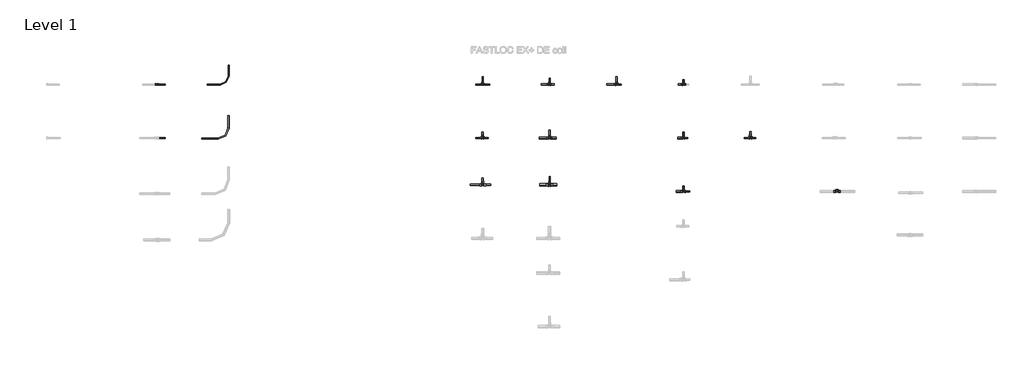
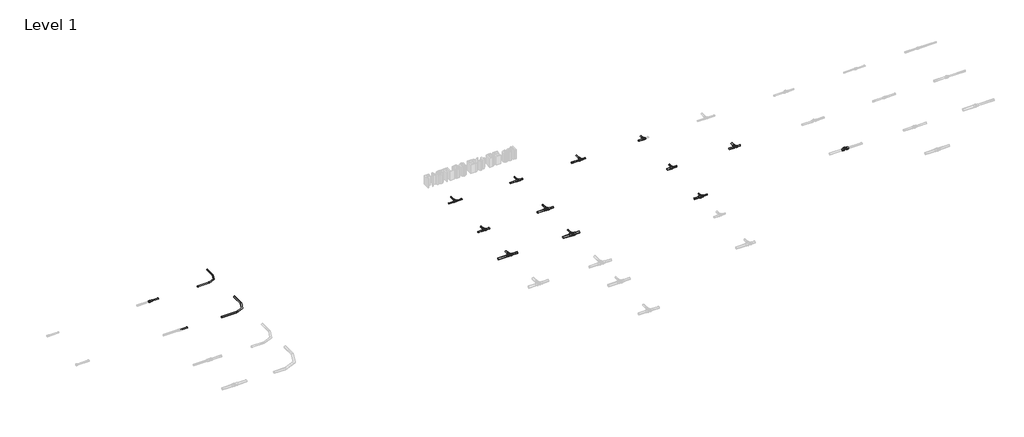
# One storey, part 13 of 16: 38 pipe segments, 16 pipe fittings.
"""IFC4 building model written with IfcOpenShell, lengths in millimetres."""

from ifc_helpers import new_model, si_unit, point, frame, frame_2d, origin, place, context, project, spatial, circle_curve, trimmed, segment, composite_curve, outline, extrude, transform, mapped, element, save
from components import pipe_fitting_8a207ca9, pipe_fitting_6d1999ba, pipe_fitting_c9c9eba3, pipe_fitting_39b045f9, pipe_fitting_378a86a2, pipe_fitting_26206a52, pipe_fitting_e85672de, pipe_fitting_b8b68d19, pipe_fitting_24fba4d8, pipe_fitting_22a72f01, pipe_fitting_0153befe, pipe_fitting_3090ac59, pipe_fitting_8e4805be, pipe_fitting_271ef6d1, pipe_fitting_f7ca1bd1, pipe_fitting_e5d04139

model = new_model("IFC4")

# Units and contexts
model_context = context("Model", 3, world=origin())
ifc_project = project(units=[si_unit("LENGTHUNIT", "METRE", prefix="MILLI")], contexts=[model_context])

# Site, building, storey
site = spatial("IfcSite", under=ifc_project)
building = spatial("IfcBuilding", under=site)
storey = spatial("IfcBuildingStorey", under=building, Name="Level 1", Elevation=0.0)

# Pipe fittings
placement = place(None, origin())
pipe_fitting_shape = pipe_fitting_8a207ca9(model_context)
element("IfcPipeFitting", 1, ObjectType="FASTLOC_ML_bend : FSL ML DE", at=placement, inside=storey, context=model_context, shape_type="MappedRepresentation", body=[
    mapped(pipe_fitting_shape, transform((25170.2040344, 2012.3520033, 0.0), x_axis=(1.0, 0.0, 0.0), y_axis=(0.0, 1.0, 0.0), z_axis=(0.0, 0.0, 1.0))),
])
pipe_fitting_2_shape = pipe_fitting_6d1999ba(model_context)
element("IfcPipeFitting", 2, ObjectType="FASTLOC_Adapter coupling EX+ : FSL TC EX+ DE", at=placement, inside=storey, context=model_context, shape_type="MappedRepresentation", body=[
    mapped(pipe_fitting_2_shape, transform((24091.3241081, 2012.3520033, 13.7), x_axis=(1.0, 0.0, 0.0), y_axis=(0.0, 1.0, 0.0), z_axis=(0.0, 0.0, 1.0))),
])
pipe_fitting_3_shape = pipe_fitting_c9c9eba3(model_context)
element("IfcPipeFitting", 3, ObjectType="RAUTITAN_Sleeve PX : RTI S PX", at=placement, inside=storey, context=model_context, shape_type="MappedRepresentation", body=[
    mapped(pipe_fitting_3_shape, transform((24105.0241081, 2012.3520033, 13.7), x_axis=(1.0, 0.0, 0.0), y_axis=(0.0, 1.0, 0.0), z_axis=(0.0, 0.0, 1.0))),
])
pipe_fitting_4_shape = pipe_fitting_39b045f9(model_context)
element("IfcPipeFitting", 4, ObjectType="FASTLOC_ML_bend : FSL ML DE", at=placement, inside=storey, context=model_context, shape_type="MappedRepresentation", body=[
    mapped(pipe_fitting_4_shape, transform((25170.2040344, 1204.3520033, 0.0), x_axis=(1.0, 0.0, 0.0), y_axis=(0.0, 1.0, 0.0), z_axis=(0.0, 0.0, 1.0))),
])
pipe_fitting_5_shape = pipe_fitting_378a86a2(model_context)
element("IfcPipeFitting", 5, ObjectType="FASTLOC_T-piece_EX+ : FSL T-Piece EX+ DE", at=placement, inside=storey, context=model_context, shape_type="MappedRepresentation", body=[
    mapped(pipe_fitting_5_shape, transform((28962.9146925, 2012.3520033, 0.0), x_axis=(1.0, 0.0, 0.0), y_axis=(0.0, 1.0, 0.0), z_axis=(0.0, 0.0, 1.0))),
])
pipe_fitting_6_shape = pipe_fitting_26206a52(model_context)
element("IfcPipeFitting", 6, ObjectType="FASTLOC_T-piece_EX+ : FSL T-Piece EX+ DE", at=placement, inside=storey, context=model_context, shape_type="MappedRepresentation", body=[
    mapped(pipe_fitting_6_shape, transform((28962.9146925, 1212.3520033, 0.0), x_axis=(1.0, 0.0, 0.0), y_axis=(0.0, 1.0, 0.0), z_axis=(0.0, 0.0, 1.0))),
])
pipe_fitting_7_shape = pipe_fitting_e85672de(model_context)
element("IfcPipeFitting", 7, ObjectType="FASTLOC_T-piece_EX+ : FSL T-Piece EX+ DE", at=placement, inside=storey, context=model_context, shape_type="MappedRepresentation", body=[
    mapped(pipe_fitting_7_shape, transform((28962.9146925, 512.3520033, 0.0), x_axis=(1.0, 0.0, 0.0), y_axis=(0.0, 1.0, 0.0), z_axis=(0.0, 0.0, 1.0))),
])
pipe_fitting_8_shape = pipe_fitting_b8b68d19(model_context)
element("IfcPipeFitting", 8, ObjectType="FASTLOC_T-piece_EX+ : FSL T-Piece EX+ DE", at=placement, inside=storey, context=model_context, shape_type="MappedRepresentation", body=[
    mapped(pipe_fitting_8_shape, transform((29962.9146925, 2012.3520033, 0.0), x_axis=(1.0, 0.0, 0.0), y_axis=(0.0, 1.0, 0.0), z_axis=(0.0, 0.0, 1.0))),
])
pipe_fitting_9_shape = pipe_fitting_24fba4d8(model_context)
element("IfcPipeFitting", 9, ObjectType="FASTLOC_T-piece_EX+ : FSL T-Piece EX+ DE", at=placement, inside=storey, context=model_context, shape_type="MappedRepresentation", body=[
    mapped(pipe_fitting_9_shape, transform((29962.9146925, 1212.3520033, 0.0), x_axis=(1.0, 0.0, 0.0), y_axis=(0.0, 1.0, 0.0), z_axis=(0.0, 0.0, 1.0))),
])
pipe_fitting_10_shape = pipe_fitting_22a72f01(model_context)
element("IfcPipeFitting", 10, ObjectType="FASTLOC_T-piece_EX+ : FSL T-Piece EX+ DE", at=placement, inside=storey, context=model_context, shape_type="MappedRepresentation", body=[
    mapped(pipe_fitting_10_shape, transform((29962.9146925, 512.3520033, 0.0), x_axis=(1.0, 0.0, 0.0), y_axis=(0.0, 1.0, 0.0), z_axis=(0.0, 0.0, 1.0))),
])
pipe_fitting_11_shape = pipe_fitting_0153befe(model_context)
element("IfcPipeFitting", 11, ObjectType="FASTLOC_T-piece_EX+ : FSL T-Piece EX+ DE", at=placement, inside=storey, context=model_context, shape_type="MappedRepresentation", body=[
    mapped(pipe_fitting_11_shape, transform((30962.9146925, 2012.3520033, 0.0), x_axis=(1.0, 0.0, 0.0), y_axis=(0.0, 1.0, 0.0), z_axis=(0.0, 0.0, 1.0))),
])
pipe_fitting_12_shape = pipe_fitting_3090ac59(model_context)
element("IfcPipeFitting", 12, ObjectType="FASTLOC_T-piece_EX+ : FSL T-Piece EX+ DE", at=placement, inside=storey, context=model_context, shape_type="MappedRepresentation", body=[
    mapped(pipe_fitting_12_shape, transform((31962.9146925, 2012.3520033, 0.0), x_axis=(1.0, 0.0, 0.0), y_axis=(0.0, 1.0, 0.0), z_axis=(0.0, 0.0, 1.0))),
])
pipe_fitting_13_shape = pipe_fitting_8e4805be(model_context)
element("IfcPipeFitting", 13, ObjectType="FASTLOC_T-piece_EX+ : FSL T-Piece EX+ DE", at=placement, inside=storey, context=model_context, shape_type="MappedRepresentation", body=[
    mapped(pipe_fitting_13_shape, transform((31962.9146925, 1212.3520033, 0.0), x_axis=(1.0, 0.0, 0.0), y_axis=(0.0, 1.0, 0.0), z_axis=(0.0, 0.0, 1.0))),
])
pipe_fitting_14_shape = pipe_fitting_271ef6d1(model_context)
element("IfcPipeFitting", 14, ObjectType="FASTLOC_T-piece_EX+ : FSL T-Piece EX+ DE", at=placement, inside=storey, context=model_context, shape_type="MappedRepresentation", body=[
    mapped(pipe_fitting_14_shape, transform((31962.9146925, 412.3520033, 0.0), x_axis=(1.0, 0.0, 0.0), y_axis=(0.0, 1.0, 0.0), z_axis=(0.0, 0.0, 1.0))),
])
pipe_fitting_15_shape = pipe_fitting_f7ca1bd1(model_context)
element("IfcPipeFitting", 15, ObjectType="FASTLOC_T-piece_EX+ : FSL T-Piece EX+ DE", at=placement, inside=storey, context=model_context, shape_type="MappedRepresentation", body=[
    mapped(pipe_fitting_15_shape, transform((32962.9146925, 1212.3520033, 0.0), x_axis=(1.0, 0.0, 0.0), y_axis=(0.0, 1.0, 0.0), z_axis=(0.0, 0.0, 1.0))),
])
pipe_fitting_16_shape = pipe_fitting_e5d04139(model_context)
element("IfcPipeFitting", 16, ObjectType="FASTLOC_T-piece internal thread EX+ : FSL T thread EX+ DE", at=placement, inside=storey, context=model_context, shape_type="MappedRepresentation", body=[
    mapped(pipe_fitting_16_shape, transform((34254.9423493, 412.3520033, 0.0), x_axis=(1.0, 0.0, 0.0), y_axis=(0.0, 1.0, 0.0), z_axis=(0.0, 0.0, 1.0))),
])

# Pipe segments
element("IfcPipeSegment", 17, ObjectType="FASTLOC EX+ ML DE bar", at=placement, inside=storey, context=model_context, shape_type="SweptSolid", body=[
    extrude(outline(composite_curve([segment(trimmed(circle_curve(frame_2d((0.0, 25170.2040344)), 8.0), [point((0.0, 25178.2040344))], [point((8.0, 25170.2040344))], False, "CARTESIAN"), True, "CONTINUOUS"), segment(trimmed(circle_curve(frame_2d((0.0, 25170.2040344)), 8.0), [point((8.0, 25170.2040344))], [point((0.0, 25162.2040344))], False, "CARTESIAN"), True, "CONTINUOUS"), segment(trimmed(circle_curve(frame_2d((0.0, 25170.2040344)), 8.0), [point((0.0, 25162.2040344))], [point((-8.0, 25170.2040344))], False, "CARTESIAN"), True, "CONTINUOUS"), segment(trimmed(circle_curve(frame_2d((0.0, 25170.2040344)), 8.0), [point((-8.0, 25170.2040344))], [point((0.0, 25178.2040344))], False, "CARTESIAN"), True, "CONTINUOUS")], self_intersect=False)), frame((0.0, 2140.3520033, 0.0), z_axis=(0.0, 1.0, 0.0), x_axis=(0.0, 0.0, 1.0)), (0.0, 0.0, 1.0), 160.0),
])
element("IfcPipeSegment", 18, ObjectType="FASTLOC EX+ ML DE bar", at=placement, inside=storey, context=model_context, shape_type="SweptSolid", body=[
    extrude(outline(composite_curve([segment(trimmed(circle_curve(frame_2d((2012.3520033, 0.0)), 8.0), [point((2020.3520033, 0.0))], [point((2012.3520033, -8.0))], False, "CARTESIAN"), True, "CONTINUOUS"), segment(trimmed(circle_curve(frame_2d((2012.3520033, 0.0)), 8.0), [point((2012.3520033, -8.0))], [point((2004.3520033, 0.0))], False, "CARTESIAN"), True, "CONTINUOUS"), segment(trimmed(circle_curve(frame_2d((2012.3520033, 0.0)), 8.0), [point((2004.3520033, 0.0))], [point((2012.3520033, 8.0))], False, "CARTESIAN"), True, "CONTINUOUS"), segment(trimmed(circle_curve(frame_2d((2012.3520033, 0.0)), 8.0), [point((2012.3520033, 8.0))], [point((2020.3520033, 0.0))], False, "CARTESIAN"), True, "CONTINUOUS")], self_intersect=False)), frame((24850.2040344, 0.0, 0.0), z_axis=(1.0, 0.0, 0.0), x_axis=(0.0, 1.0, 0.0)), (0.0, 0.0, 1.0), 192.0),
])
element("IfcPipeSegment", 19, ObjectType="FASTLOC EX+ ML DE bar", at=placement, inside=storey, context=model_context, shape_type="SweptSolid", body=[
    extrude(outline(composite_curve([segment(trimmed(circle_curve(frame_2d((0.0, 25170.2040344)), 10.0), [point((0.0, 25180.2040344))], [point((10.0, 25170.2040344))], False, "CARTESIAN"), True, "CONTINUOUS"), segment(trimmed(circle_curve(frame_2d((0.0, 25170.2040344)), 10.0), [point((10.0, 25170.2040344))], [point((0.0, 25160.2040344))], False, "CARTESIAN"), True, "CONTINUOUS"), segment(trimmed(circle_curve(frame_2d((0.0, 25170.2040344)), 10.0), [point((0.0, 25160.2040344))], [point((-10.0, 25170.2040344))], False, "CARTESIAN"), True, "CONTINUOUS"), segment(trimmed(circle_curve(frame_2d((0.0, 25170.2040344)), 10.0), [point((-10.0, 25170.2040344))], [point((0.0, 25180.2040344))], False, "CARTESIAN"), True, "CONTINUOUS")], self_intersect=False)), frame((0.0, 1364.3520033, 0.0), z_axis=(0.0, 1.0, 0.0), x_axis=(0.0, 0.0, 1.0)), (0.0, 0.0, 1.0), 180.0),
])
element("IfcPipeSegment", 20, ObjectType="FASTLOC EX+ ML DE bar", at=placement, inside=storey, context=model_context, shape_type="SweptSolid", body=[
    extrude(outline(composite_curve([segment(trimmed(circle_curve(frame_2d((1204.3520033, 0.0)), 10.0), [point((1214.3520033, 0.0))], [point((1204.3520033, -10.0))], False, "CARTESIAN"), True, "CONTINUOUS"), segment(trimmed(circle_curve(frame_2d((1204.3520033, 0.0)), 10.0), [point((1204.3520033, -10.0))], [point((1194.3520033, 0.0))], False, "CARTESIAN"), True, "CONTINUOUS"), segment(trimmed(circle_curve(frame_2d((1204.3520033, 0.0)), 10.0), [point((1194.3520033, 0.0))], [point((1204.3520033, 10.0))], False, "CARTESIAN"), True, "CONTINUOUS"), segment(trimmed(circle_curve(frame_2d((1204.3520033, 0.0)), 10.0), [point((1204.3520033, 10.0))], [point((1214.3520033, 0.0))], False, "CARTESIAN"), True, "CONTINUOUS")], self_intersect=False)), frame((24770.2040344, 0.0, 0.0), z_axis=(1.0, 0.0, 0.0), x_axis=(0.0, 1.0, 0.0)), (0.0, 0.0, 1.0), 240.0),
])
element("IfcPipeSegment", 21, ObjectType="FASTLOC EX+ ML DE bar", at=placement, inside=storey, context=model_context, shape_type="SweptSolid", body=[
    extrude(outline(composite_curve([segment(trimmed(circle_curve(frame_2d((1212.3520033, 13.7)), 10.0), [point((1202.3520033, 13.7))], [point((1212.3520033, 23.7))], False, "CARTESIAN"), True, "CONTINUOUS"), segment(trimmed(circle_curve(frame_2d((1212.3520033, 13.7)), 10.0), [point((1212.3520033, 23.7))], [point((1222.3520033, 13.7))], False, "CARTESIAN"), True, "CONTINUOUS"), segment(trimmed(circle_curve(frame_2d((1212.3520033, 13.7)), 10.0), [point((1222.3520033, 13.7))], [point((1212.3520033, 3.7))], False, "CARTESIAN"), True, "CONTINUOUS"), segment(trimmed(circle_curve(frame_2d((1212.3520033, 13.7)), 10.0), [point((1212.3520033, 3.7))], [point((1202.3520033, 13.7))], False, "CARTESIAN"), True, "CONTINUOUS")], self_intersect=False)), frame((24105.6241081, 0.0, 0.0), z_axis=(1.0, 0.0, 0.0), x_axis=(0.0, 1.0, 0.0)), (0.0, 0.0, 1.0), 120.0),
])
element("IfcPipeSegment", 22, ObjectType="FASTLOC EX+ ML DE bar", at=placement, inside=storey, context=model_context, shape_type="SweptSolid", body=[
    extrude(outline(composite_curve([segment(trimmed(circle_curve(frame_2d((2012.3520033, 13.7)), 8.0), [point((2004.3520033, 13.7))], [point((2012.3520033, 21.7))], False, "CARTESIAN"), True, "CONTINUOUS"), segment(trimmed(circle_curve(frame_2d((2012.3520033, 13.7)), 8.0), [point((2012.3520033, 21.7))], [point((2020.3520033, 13.7))], False, "CARTESIAN"), True, "CONTINUOUS"), segment(trimmed(circle_curve(frame_2d((2012.3520033, 13.7)), 8.0), [point((2020.3520033, 13.7))], [point((2012.3520033, 5.7))], False, "CARTESIAN"), True, "CONTINUOUS"), segment(trimmed(circle_curve(frame_2d((2012.3520033, 13.7)), 8.0), [point((2012.3520033, 5.7))], [point((2004.3520033, 13.7))], False, "CARTESIAN"), True, "CONTINUOUS")], self_intersect=False)), frame((24105.0241081, 0.0, 0.0), z_axis=(1.0, 0.0, 0.0), x_axis=(0.0, 1.0, 0.0)), (0.0, 0.0, 1.0), 120.6),
])
element("IfcPipeSegment", 23, ObjectType="FASTLOC EX+ ML DE coil", at=placement, inside=storey, context=model_context, shape_type="SweptSolid", body=[
    extrude(outline(composite_curve([segment(trimmed(circle_curve(frame_2d((1212.3520033, 0.0)), 10.0), [point((1222.3520033, 0.0))], [point((1212.3520033, -10.0))], False, "CARTESIAN"), True, "CONTINUOUS"), segment(trimmed(circle_curve(frame_2d((1212.3520033, 0.0)), 10.0), [point((1212.3520033, -10.0))], [point((1202.3520033, 0.0))], False, "CARTESIAN"), True, "CONTINUOUS"), segment(trimmed(circle_curve(frame_2d((1212.3520033, 0.0)), 10.0), [point((1202.3520033, 0.0))], [point((1212.3520033, 10.0))], False, "CARTESIAN"), True, "CONTINUOUS"), segment(trimmed(circle_curve(frame_2d((1212.3520033, 0.0)), 10.0), [point((1212.3520033, 10.0))], [point((1222.3520033, 0.0))], False, "CARTESIAN"), True, "CONTINUOUS")], self_intersect=False)), frame((32868.9146925, 0.0, 0.0), z_axis=(1.0, 0.0, 0.0), x_axis=(0.0, 1.0, 0.0)), (0.0, 0.0, 1.0), 75.0),
])
element("IfcPipeSegment", 24, ObjectType="FASTLOC EX+ ML DE coil", at=placement, inside=storey, context=model_context, shape_type="SweptSolid", body=[
    extrude(outline(composite_curve([segment(trimmed(circle_curve(frame_2d((1212.3520033, 0.0)), 10.0), [point((1202.3520033, 0.0))], [point((1212.3520033, 10.0))], False, "CARTESIAN"), True, "CONTINUOUS"), segment(trimmed(circle_curve(frame_2d((1212.3520033, 0.0)), 10.0), [point((1212.3520033, 10.0))], [point((1222.3520033, 0.0))], False, "CARTESIAN"), True, "CONTINUOUS"), segment(trimmed(circle_curve(frame_2d((1212.3520033, 0.0)), 10.0), [point((1222.3520033, 0.0))], [point((1212.3520033, -10.0))], False, "CARTESIAN"), True, "CONTINUOUS"), segment(trimmed(circle_curve(frame_2d((1212.3520033, 0.0)), 10.0), [point((1212.3520033, -10.0))], [point((1202.3520033, 0.0))], False, "CARTESIAN"), True, "CONTINUOUS")], self_intersect=False)), frame((32981.9146925, 0.0, 0.0), z_axis=(1.0, 0.0, 0.0), x_axis=(0.0, 1.0, 0.0)), (0.0, 0.0, 1.0), 60.0),
])
element("IfcPipeSegment", 25, ObjectType="FASTLOC EX+ ML DE coil", at=placement, inside=storey, context=model_context, shape_type="SweptSolid", body=[
    extrude(outline(composite_curve([segment(trimmed(circle_curve(frame_2d((0.0, 32962.9146925)), 12.5), [point((0.0, 32975.4146925))], [point((12.5, 32962.9146925))], False, "CARTESIAN"), True, "CONTINUOUS"), segment(trimmed(circle_curve(frame_2d((0.0, 32962.9146925)), 12.5), [point((12.5, 32962.9146925))], [point((0.0, 32950.4146925))], False, "CARTESIAN"), True, "CONTINUOUS"), segment(trimmed(circle_curve(frame_2d((0.0, 32962.9146925)), 12.5), [point((0.0, 32950.4146925))], [point((-12.5, 32962.9146925))], False, "CARTESIAN"), True, "CONTINUOUS"), segment(trimmed(circle_curve(frame_2d((0.0, 32962.9146925)), 12.5), [point((-12.5, 32962.9146925))], [point((0.0, 32975.4146925))], False, "CARTESIAN"), True, "CONTINUOUS")], self_intersect=False)), frame((0.0, 1239.1520033, 0.0), z_axis=(0.0, 1.0, 0.0), x_axis=(0.0, 0.0, 1.0)), (0.0, 0.0, 1.0), 70.0),
])
element("IfcPipeSegment", 26, ObjectType="FASTLOC EX+ ML DE coil", at=placement, inside=storey, context=model_context, shape_type="SweptSolid", body=[
    extrude(outline(composite_curve([segment(trimmed(circle_curve(frame_2d((2012.3520033, 0.0)), 10.0), [point((2022.3520033, 0.0))], [point((2012.3520033, -10.0))], False, "CARTESIAN"), True, "CONTINUOUS"), segment(trimmed(circle_curve(frame_2d((2012.3520033, 0.0)), 10.0), [point((2012.3520033, -10.0))], [point((2002.3520033, 0.0))], False, "CARTESIAN"), True, "CONTINUOUS"), segment(trimmed(circle_curve(frame_2d((2012.3520033, 0.0)), 10.0), [point((2002.3520033, 0.0))], [point((2012.3520033, 10.0))], False, "CARTESIAN"), True, "CONTINUOUS"), segment(trimmed(circle_curve(frame_2d((2012.3520033, 0.0)), 10.0), [point((2012.3520033, 10.0))], [point((2022.3520033, 0.0))], False, "CARTESIAN"), True, "CONTINUOUS")], self_intersect=False)), frame((31882.4146925, 0.0, 0.0), z_axis=(1.0, 0.0, 0.0), x_axis=(0.0, 1.0, 0.0)), (0.0, 0.0, 1.0), 65.0),
])
element("IfcPipeSegment", 27, ObjectType="FASTLOC EX+ ML DE coil", at=placement, inside=storey, context=model_context, shape_type="SweptSolid", body=[
    extrude(outline(composite_curve([segment(trimmed(circle_curve(frame_2d((0.0, 31962.9146925)), 8.0), [point((0.0, 31970.9146925))], [point((8.0, 31962.9146925))], False, "CARTESIAN"), True, "CONTINUOUS"), segment(trimmed(circle_curve(frame_2d((0.0, 31962.9146925)), 8.0), [point((8.0, 31962.9146925))], [point((0.0, 31954.9146925))], False, "CARTESIAN"), True, "CONTINUOUS"), segment(trimmed(circle_curve(frame_2d((0.0, 31962.9146925)), 8.0), [point((0.0, 31954.9146925))], [point((-8.0, 31962.9146925))], False, "CARTESIAN"), True, "CONTINUOUS"), segment(trimmed(circle_curve(frame_2d((0.0, 31962.9146925)), 8.0), [point((-8.0, 31962.9146925))], [point((0.0, 31970.9146925))], False, "CARTESIAN"), True, "CONTINUOUS")], self_intersect=False)), frame((0.0, 2038.7520033, 0.0), z_axis=(0.0, 1.0, 0.0), x_axis=(0.0, 0.0, 1.0)), (0.0, 0.0, 1.0), 50.0),
])
element("IfcPipeSegment", 28, ObjectType="FASTLOC EX+ ML DE coil", at=placement, inside=storey, context=model_context, shape_type="SweptSolid", body=[
    extrude(outline(composite_curve([segment(trimmed(circle_curve(frame_2d((1212.3520033, 0.0)), 8.0), [point((1204.3520033, 0.0))], [point((1212.3520033, 8.0))], False, "CARTESIAN"), True, "CONTINUOUS"), segment(trimmed(circle_curve(frame_2d((1212.3520033, 0.0)), 8.0), [point((1212.3520033, 8.0))], [point((1220.3520033, 0.0))], False, "CARTESIAN"), True, "CONTINUOUS"), segment(trimmed(circle_curve(frame_2d((1212.3520033, 0.0)), 8.0), [point((1220.3520033, 0.0))], [point((1212.3520033, -8.0))], False, "CARTESIAN"), True, "CONTINUOUS"), segment(trimmed(circle_curve(frame_2d((1212.3520033, 0.0)), 8.0), [point((1212.3520033, -8.0))], [point((1204.3520033, 0.0))], False, "CARTESIAN"), True, "CONTINUOUS")], self_intersect=False)), frame((31978.0146925, 0.0, 0.0), z_axis=(1.0, 0.0, 0.0), x_axis=(0.0, 1.0, 0.0)), (0.0, 0.0, 1.0), 51.7891439),
])
element("IfcPipeSegment", 29, ObjectType="FASTLOC EX+ ML DE coil", at=placement, inside=storey, context=model_context, shape_type="SweptSolid", body=[
    extrude(outline(composite_curve([segment(trimmed(circle_curve(frame_2d((1212.3520033, 0.0)), 12.5), [point((1224.8520033, 0.0))], [point((1212.3520033, -12.5))], False, "CARTESIAN"), True, "CONTINUOUS"), segment(trimmed(circle_curve(frame_2d((1212.3520033, 0.0)), 12.5), [point((1212.3520033, -12.5))], [point((1199.8520033, 0.0))], False, "CARTESIAN"), True, "CONTINUOUS"), segment(trimmed(circle_curve(frame_2d((1212.3520033, 0.0)), 12.5), [point((1199.8520033, 0.0))], [point((1212.3520033, 12.5))], False, "CARTESIAN"), True, "CONTINUOUS"), segment(trimmed(circle_curve(frame_2d((1212.3520033, 0.0)), 12.5), [point((1212.3520033, 12.5))], [point((1224.8520033, 0.0))], False, "CARTESIAN"), True, "CONTINUOUS")], self_intersect=False)), frame((31876.5146925, 0.0, 0.0), z_axis=(1.0, 0.0, 0.0), x_axis=(0.0, 1.0, 0.0)), (0.0, 0.0, 1.0), 70.0),
])
element("IfcPipeSegment", 30, ObjectType="FASTLOC EX+ ML DE coil", at=placement, inside=storey, context=model_context, shape_type="SweptSolid", body=[
    extrude(outline(composite_curve([segment(trimmed(circle_curve(frame_2d((0.0, 31962.9146925)), 8.0), [point((0.0, 31970.9146925))], [point((8.0, 31962.9146925))], False, "CARTESIAN"), True, "CONTINUOUS"), segment(trimmed(circle_curve(frame_2d((0.0, 31962.9146925)), 8.0), [point((8.0, 31962.9146925))], [point((0.0, 31954.9146925))], False, "CARTESIAN"), True, "CONTINUOUS"), segment(trimmed(circle_curve(frame_2d((0.0, 31962.9146925)), 8.0), [point((0.0, 31954.9146925))], [point((-8.0, 31962.9146925))], False, "CARTESIAN"), True, "CONTINUOUS"), segment(trimmed(circle_curve(frame_2d((0.0, 31962.9146925)), 8.0), [point((-8.0, 31962.9146925))], [point((0.0, 31970.9146925))], False, "CARTESIAN"), True, "CONTINUOUS")], self_intersect=False)), frame((0.0, 1241.4520033, 0.0), z_axis=(0.0, 1.0, 0.0), x_axis=(0.0, 0.0, 1.0)), (0.0, 0.0, 1.0), 57.2788778),
])
element("IfcPipeSegment", 31, ObjectType="FASTLOC EX+ ML DE coil", at=placement, inside=storey, context=model_context, shape_type="SweptSolid", body=[
    extrude(outline(composite_curve([segment(trimmed(circle_curve(frame_2d((412.3520033, 0.0)), 10.0), [point((402.3520033, 0.0))], [point((412.3520033, 10.0))], False, "CARTESIAN"), True, "CONTINUOUS"), segment(trimmed(circle_curve(frame_2d((412.3520033, 0.0)), 10.0), [point((412.3520033, 10.0))], [point((422.3520033, 0.0))], False, "CARTESIAN"), True, "CONTINUOUS"), segment(trimmed(circle_curve(frame_2d((412.3520033, 0.0)), 10.0), [point((422.3520033, 0.0))], [point((412.3520033, -10.0))], False, "CARTESIAN"), True, "CONTINUOUS"), segment(trimmed(circle_curve(frame_2d((412.3520033, 0.0)), 10.0), [point((412.3520033, -10.0))], [point((402.3520033, 0.0))], False, "CARTESIAN"), True, "CONTINUOUS")], self_intersect=False)), frame((31978.4146925, 0.0, 0.0), z_axis=(1.0, 0.0, 0.0), x_axis=(0.0, 1.0, 0.0)), (0.0, 0.0, 1.0), 75.0),
])
element("IfcPipeSegment", 32, ObjectType="FASTLOC EX+ ML DE coil", at=placement, inside=storey, context=model_context, shape_type="SweptSolid", body=[
    extrude(outline(composite_curve([segment(trimmed(circle_curve(frame_2d((0.0, 31962.9146925)), 8.0), [point((0.0, 31970.9146925))], [point((8.0, 31962.9146925))], False, "CARTESIAN"), True, "CONTINUOUS"), segment(trimmed(circle_curve(frame_2d((0.0, 31962.9146925)), 8.0), [point((8.0, 31962.9146925))], [point((0.0, 31954.9146925))], False, "CARTESIAN"), True, "CONTINUOUS"), segment(trimmed(circle_curve(frame_2d((0.0, 31962.9146925)), 8.0), [point((0.0, 31954.9146925))], [point((-8.0, 31962.9146925))], False, "CARTESIAN"), True, "CONTINUOUS"), segment(trimmed(circle_curve(frame_2d((0.0, 31962.9146925)), 8.0), [point((-8.0, 31962.9146925))], [point((0.0, 31970.9146925))], False, "CARTESIAN"), True, "CONTINUOUS")], self_intersect=False)), frame((0.0, 441.4520033, 0.0), z_axis=(0.0, 1.0, 0.0), x_axis=(0.0, 0.0, 1.0)), (0.0, 0.0, 1.0), 50.0),
])
element("IfcPipeSegment", 33, ObjectType="FASTLOC EX+ ML DE coil", at=placement, inside=storey, context=model_context, shape_type="SweptSolid", body=[
    extrude(outline(composite_curve([segment(trimmed(circle_curve(frame_2d((412.3520033, 0.0)), 12.5), [point((424.8520033, 0.0))], [point((412.3520033, -12.5))], False, "CARTESIAN"), True, "CONTINUOUS"), segment(trimmed(circle_curve(frame_2d((412.3520033, 0.0)), 12.5), [point((412.3520033, -12.5))], [point((399.8520033, 0.0))], False, "CARTESIAN"), True, "CONTINUOUS"), segment(trimmed(circle_curve(frame_2d((412.3520033, 0.0)), 12.5), [point((399.8520033, 0.0))], [point((412.3520033, 12.5))], False, "CARTESIAN"), True, "CONTINUOUS"), segment(trimmed(circle_curve(frame_2d((412.3520033, 0.0)), 12.5), [point((412.3520033, 12.5))], [point((424.8520033, 0.0))], False, "CARTESIAN"), True, "CONTINUOUS")], self_intersect=False)), frame((31851.5146925, 0.0, 0.0), z_axis=(1.0, 0.0, 0.0), x_axis=(0.0, 1.0, 0.0)), (0.0, 0.0, 1.0), 95.0),
])
element("IfcPipeSegment", 34, ObjectType="FASTLOC EX+ ML DE coil", at=placement, inside=storey, context=model_context, shape_type="SweptSolid", body=[
    extrude(outline(composite_curve([segment(trimmed(circle_curve(frame_2d((2012.3520033, 0.0)), 8.0), [point((2004.3520033, 0.0))], [point((2012.3520033, 8.0))], False, "CARTESIAN"), True, "CONTINUOUS"), segment(trimmed(circle_curve(frame_2d((2012.3520033, 0.0)), 8.0), [point((2012.3520033, 8.0))], [point((2020.3520033, 0.0))], False, "CARTESIAN"), True, "CONTINUOUS"), segment(trimmed(circle_curve(frame_2d((2012.3520033, 0.0)), 8.0), [point((2020.3520033, 0.0))], [point((2012.3520033, -8.0))], False, "CARTESIAN"), True, "CONTINUOUS"), segment(trimmed(circle_curve(frame_2d((2012.3520033, 0.0)), 8.0), [point((2012.3520033, -8.0))], [point((2004.3520033, 0.0))], False, "CARTESIAN"), True, "CONTINUOUS")], self_intersect=False)), frame((30979.9146925, 0.0, 0.0), z_axis=(1.0, 0.0, 0.0), x_axis=(0.0, 1.0, 0.0)), (0.0, 0.0, 1.0), 55.0),
])
element("IfcPipeSegment", 35, ObjectType="FASTLOC EX+ ML DE coil", at=placement, inside=storey, context=model_context, shape_type="SweptSolid", body=[
    extrude(outline(composite_curve([segment(trimmed(circle_curve(frame_2d((0.0, 30962.9146925)), 10.0), [point((0.0, 30972.9146925))], [point((10.0, 30962.9146925))], False, "CARTESIAN"), True, "CONTINUOUS"), segment(trimmed(circle_curve(frame_2d((0.0, 30962.9146925)), 10.0), [point((10.0, 30962.9146925))], [point((0.0, 30952.9146925))], False, "CARTESIAN"), True, "CONTINUOUS"), segment(trimmed(circle_curve(frame_2d((0.0, 30962.9146925)), 10.0), [point((0.0, 30952.9146925))], [point((-10.0, 30962.9146925))], False, "CARTESIAN"), True, "CONTINUOUS"), segment(trimmed(circle_curve(frame_2d((0.0, 30962.9146925)), 10.0), [point((-10.0, 30962.9146925))], [point((0.0, 30972.9146925))], False, "CARTESIAN"), True, "CONTINUOUS")], self_intersect=False)), frame((0.0, 2038.7520033, 0.0), z_axis=(0.0, 1.0, 0.0), x_axis=(0.0, 0.0, 1.0)), (0.0, 0.0, 1.0), 90.0),
])
element("IfcPipeSegment", 36, ObjectType="FASTLOC EX+ ML DE coil", at=placement, inside=storey, context=model_context, shape_type="SweptSolid", body=[
    extrude(outline(composite_curve([segment(trimmed(circle_curve(frame_2d((2012.3520033, 0.0)), 10.0), [point((2022.3520033, 0.0))], [point((2012.3520033, -10.0))], False, "CARTESIAN"), True, "CONTINUOUS"), segment(trimmed(circle_curve(frame_2d((2012.3520033, 0.0)), 10.0), [point((2012.3520033, -10.0))], [point((2002.3520033, 0.0))], False, "CARTESIAN"), True, "CONTINUOUS"), segment(trimmed(circle_curve(frame_2d((2012.3520033, 0.0)), 10.0), [point((2002.3520033, 0.0))], [point((2012.3520033, 10.0))], False, "CARTESIAN"), True, "CONTINUOUS"), segment(trimmed(circle_curve(frame_2d((2012.3520033, 0.0)), 10.0), [point((2012.3520033, 10.0))], [point((2022.3520033, 0.0))], False, "CARTESIAN"), True, "CONTINUOUS")], self_intersect=False)), frame((30815.5146925, 0.0, 0.0), z_axis=(1.0, 0.0, 0.0), x_axis=(0.0, 1.0, 0.0)), (0.0, 0.0, 1.0), 130.0),
])
element("IfcPipeSegment", 37, ObjectType="FASTLOC EX+ ML DE coil", at=placement, inside=storey, context=model_context, shape_type="SweptSolid", body=[
    extrude(outline(composite_curve([segment(trimmed(circle_curve(frame_2d((2012.3520033, 0.0)), 10.0), [point((2002.3520033, 0.0))], [point((2012.3520033, 10.0))], False, "CARTESIAN"), True, "CONTINUOUS"), segment(trimmed(circle_curve(frame_2d((2012.3520033, 0.0)), 10.0), [point((2012.3520033, 10.0))], [point((2022.3520033, 0.0))], False, "CARTESIAN"), True, "CONTINUOUS"), segment(trimmed(circle_curve(frame_2d((2012.3520033, 0.0)), 10.0), [point((2022.3520033, 0.0))], [point((2012.3520033, -10.0))], False, "CARTESIAN"), True, "CONTINUOUS"), segment(trimmed(circle_curve(frame_2d((2012.3520033, 0.0)), 10.0), [point((2012.3520033, -10.0))], [point((2002.3520033, 0.0))], False, "CARTESIAN"), True, "CONTINUOUS")], self_intersect=False)), frame((29978.2146925, 0.0, 0.0), z_axis=(1.0, 0.0, 0.0), x_axis=(0.0, 1.0, 0.0)), (0.0, 0.0, 1.0), 55.0),
])
element("IfcPipeSegment", 38, ObjectType="FASTLOC EX+ ML DE coil", at=placement, inside=storey, context=model_context, shape_type="SweptSolid", body=[
    extrude(outline(composite_curve([segment(trimmed(circle_curve(frame_2d((0.0, 29962.9146925)), 8.0), [point((0.0, 29970.9146925))], [point((8.0, 29962.9146925))], False, "CARTESIAN"), True, "CONTINUOUS"), segment(trimmed(circle_curve(frame_2d((0.0, 29962.9146925)), 8.0), [point((8.0, 29962.9146925))], [point((0.0, 29954.9146925))], False, "CARTESIAN"), True, "CONTINUOUS"), segment(trimmed(circle_curve(frame_2d((0.0, 29962.9146925)), 8.0), [point((0.0, 29954.9146925))], [point((-8.0, 29962.9146925))], False, "CARTESIAN"), True, "CONTINUOUS"), segment(trimmed(circle_curve(frame_2d((0.0, 29962.9146925)), 8.0), [point((-8.0, 29962.9146925))], [point((0.0, 29970.9146925))], False, "CARTESIAN"), True, "CONTINUOUS")], self_intersect=False)), frame((0.0, 2038.6520033, 0.0), z_axis=(0.0, 1.0, 0.0), x_axis=(0.0, 0.0, 1.0)), (0.0, 0.0, 1.0), 70.0),
])
element("IfcPipeSegment", 39, ObjectType="FASTLOC EX+ ML DE coil", at=placement, inside=storey, context=model_context, shape_type="SweptSolid", body=[
    extrude(outline(composite_curve([segment(trimmed(circle_curve(frame_2d((2012.3520033, 0.0)), 10.0), [point((2022.3520033, 0.0))], [point((2012.3520033, -10.0))], False, "CARTESIAN"), True, "CONTINUOUS"), segment(trimmed(circle_curve(frame_2d((2012.3520033, 0.0)), 10.0), [point((2012.3520033, -10.0))], [point((2002.3520033, 0.0))], False, "CARTESIAN"), True, "CONTINUOUS"), segment(trimmed(circle_curve(frame_2d((2012.3520033, 0.0)), 10.0), [point((2002.3520033, 0.0))], [point((2012.3520033, 10.0))], False, "CARTESIAN"), True, "CONTINUOUS"), segment(trimmed(circle_curve(frame_2d((2012.3520033, 0.0)), 10.0), [point((2012.3520033, 10.0))], [point((2022.3520033, 0.0))], False, "CARTESIAN"), True, "CONTINUOUS")], self_intersect=False)), frame((29837.6146925, 0.0, 0.0), z_axis=(1.0, 0.0, 0.0), x_axis=(0.0, 1.0, 0.0)), (0.0, 0.0, 1.0), 110.0),
])
element("IfcPipeSegment", 40, ObjectType="FASTLOC EX+ ML DE coil", at=placement, inside=storey, context=model_context, shape_type="SweptSolid", body=[
    extrude(outline(composite_curve([segment(trimmed(circle_curve(frame_2d((1212.3520033, 0.0)), 12.5), [point((1199.8520033, 0.0))], [point((1212.3520033, 12.5))], False, "CARTESIAN"), True, "CONTINUOUS"), segment(trimmed(circle_curve(frame_2d((1212.3520033, 0.0)), 12.5), [point((1212.3520033, 12.5))], [point((1224.8520033, 0.0))], False, "CARTESIAN"), True, "CONTINUOUS"), segment(trimmed(circle_curve(frame_2d((1212.3520033, 0.0)), 12.5), [point((1224.8520033, 0.0))], [point((1212.3520033, -12.5))], False, "CARTESIAN"), True, "CONTINUOUS"), segment(trimmed(circle_curve(frame_2d((1212.3520033, 0.0)), 12.5), [point((1212.3520033, -12.5))], [point((1199.8520033, 0.0))], False, "CARTESIAN"), True, "CONTINUOUS")], self_intersect=False)), frame((29981.0146925, 0.0, 0.0), z_axis=(1.0, 0.0, 0.0), x_axis=(0.0, 1.0, 0.0)), (0.0, 0.0, 1.0), 80.0),
])
element("IfcPipeSegment", 41, ObjectType="FASTLOC EX+ ML DE coil", at=placement, inside=storey, context=model_context, shape_type="SweptSolid", body=[
    extrude(outline(composite_curve([segment(trimmed(circle_curve(frame_2d((0.0, 29962.9146925)), 10.0), [point((0.0, 29972.9146925))], [point((10.0, 29962.9146925))], False, "CARTESIAN"), True, "CONTINUOUS"), segment(trimmed(circle_curve(frame_2d((0.0, 29962.9146925)), 10.0), [point((10.0, 29962.9146925))], [point((0.0, 29952.9146925))], False, "CARTESIAN"), True, "CONTINUOUS"), segment(trimmed(circle_curve(frame_2d((0.0, 29962.9146925)), 10.0), [point((0.0, 29952.9146925))], [point((-10.0, 29962.9146925))], False, "CARTESIAN"), True, "CONTINUOUS"), segment(trimmed(circle_curve(frame_2d((0.0, 29962.9146925)), 10.0), [point((-10.0, 29962.9146925))], [point((0.0, 29972.9146925))], False, "CARTESIAN"), True, "CONTINUOUS")], self_intersect=False)), frame((0.0, 1241.5520033, 0.0), z_axis=(0.0, 1.0, 0.0), x_axis=(0.0, 0.0, 1.0)), (0.0, 0.0, 1.0), 90.0),
])
element("IfcPipeSegment", 42, ObjectType="FASTLOC EX+ ML DE coil", at=placement, inside=storey, context=model_context, shape_type="SweptSolid", body=[
    extrude(outline(composite_curve([segment(trimmed(circle_curve(frame_2d((1212.3520033, 0.0)), 12.5), [point((1224.8520033, 0.0))], [point((1212.3520033, -12.5))], False, "CARTESIAN"), True, "CONTINUOUS"), segment(trimmed(circle_curve(frame_2d((1212.3520033, 0.0)), 12.5), [point((1212.3520033, -12.5))], [point((1199.8520033, 0.0))], False, "CARTESIAN"), True, "CONTINUOUS"), segment(trimmed(circle_curve(frame_2d((1212.3520033, 0.0)), 12.5), [point((1199.8520033, 0.0))], [point((1212.3520033, 12.5))], False, "CARTESIAN"), True, "CONTINUOUS"), segment(trimmed(circle_curve(frame_2d((1212.3520033, 0.0)), 12.5), [point((1212.3520033, 12.5))], [point((1224.8520033, 0.0))], False, "CARTESIAN"), True, "CONTINUOUS")], self_intersect=False)), frame((29809.8146925, 0.0, 0.0), z_axis=(1.0, 0.0, 0.0), x_axis=(0.0, 1.0, 0.0)), (0.0, 0.0, 1.0), 135.0),
])
element("IfcPipeSegment", 43, ObjectType="FASTLOC EX+ ML DE coil", at=placement, inside=storey, context=model_context, shape_type="SweptSolid", body=[
    extrude(outline(composite_curve([segment(trimmed(circle_curve(frame_2d((512.3520033, 0.0)), 16.0), [point((496.3520033, 0.0))], [point((512.3520033, 16.0))], False, "CARTESIAN"), True, "CONTINUOUS"), segment(trimmed(circle_curve(frame_2d((512.3520033, 0.0)), 16.0), [point((512.3520033, 16.0))], [point((528.3520033, 0.0))], False, "CARTESIAN"), True, "CONTINUOUS"), segment(trimmed(circle_curve(frame_2d((512.3520033, 0.0)), 16.0), [point((528.3520033, 0.0))], [point((512.3520033, -16.0))], False, "CARTESIAN"), True, "CONTINUOUS"), segment(trimmed(circle_curve(frame_2d((512.3520033, 0.0)), 16.0), [point((512.3520033, -16.0))], [point((496.3520033, 0.0))], False, "CARTESIAN"), True, "CONTINUOUS")], self_intersect=False)), frame((29981.2146925, 0.0, 0.0), z_axis=(1.0, 0.0, 0.0), x_axis=(0.0, 1.0, 0.0)), (0.0, 0.0, 1.0), 90.0),
])
element("IfcPipeSegment", 44, ObjectType="FASTLOC EX+ ML DE coil", at=placement, inside=storey, context=model_context, shape_type="SweptSolid", body=[
    extrude(outline(composite_curve([segment(trimmed(circle_curve(frame_2d((0.0, 29962.9146925)), 8.0), [point((0.0, 29970.9146925))], [point((8.0, 29962.9146925))], False, "CARTESIAN"), True, "CONTINUOUS"), segment(trimmed(circle_curve(frame_2d((0.0, 29962.9146925)), 8.0), [point((8.0, 29962.9146925))], [point((0.0, 29954.9146925))], False, "CARTESIAN"), True, "CONTINUOUS"), segment(trimmed(circle_curve(frame_2d((0.0, 29962.9146925)), 8.0), [point((0.0, 29954.9146925))], [point((-8.0, 29962.9146925))], False, "CARTESIAN"), True, "CONTINUOUS"), segment(trimmed(circle_curve(frame_2d((0.0, 29962.9146925)), 8.0), [point((-8.0, 29962.9146925))], [point((0.0, 29970.9146925))], False, "CARTESIAN"), True, "CONTINUOUS")], self_intersect=False)), frame((0.0, 546.2520033, 0.0), z_axis=(0.0, 1.0, 0.0), x_axis=(0.0, 0.0, 1.0)), (0.0, 0.0, 1.0), 90.0),
])
element("IfcPipeSegment", 45, ObjectType="FASTLOC EX+ ML DE coil", at=placement, inside=storey, context=model_context, shape_type="SweptSolid", body=[
    extrude(outline(composite_curve([segment(trimmed(circle_curve(frame_2d((512.3520033, 0.0)), 16.0), [point((528.3520033, 0.0))], [point((512.3520033, -16.0))], False, "CARTESIAN"), True, "CONTINUOUS"), segment(trimmed(circle_curve(frame_2d((512.3520033, 0.0)), 16.0), [point((512.3520033, -16.0))], [point((496.3520033, 0.0))], False, "CARTESIAN"), True, "CONTINUOUS"), segment(trimmed(circle_curve(frame_2d((512.3520033, 0.0)), 16.0), [point((496.3520033, 0.0))], [point((512.3520033, 16.0))], False, "CARTESIAN"), True, "CONTINUOUS"), segment(trimmed(circle_curve(frame_2d((512.3520033, 0.0)), 16.0), [point((512.3520033, 16.0))], [point((528.3520033, 0.0))], False, "CARTESIAN"), True, "CONTINUOUS")], self_intersect=False)), frame((29814.6146925, 0.0, 0.0), z_axis=(1.0, 0.0, 0.0), x_axis=(0.0, 1.0, 0.0)), (0.0, 0.0, 1.0), 130.0),
])
element("IfcPipeSegment", 46, ObjectType="FASTLOC EX+ ML DE coil", at=placement, inside=storey, context=model_context, shape_type="SweptSolid", body=[
    extrude(outline(composite_curve([segment(trimmed(circle_curve(frame_2d((0.0, 28962.9146925)), 12.5), [point((0.0, 28975.4146925))], [point((12.5, 28962.9146925))], False, "CARTESIAN"), True, "CONTINUOUS"), segment(trimmed(circle_curve(frame_2d((0.0, 28962.9146925)), 12.5), [point((12.5, 28962.9146925))], [point((0.0, 28950.4146925))], False, "CARTESIAN"), True, "CONTINUOUS"), segment(trimmed(circle_curve(frame_2d((0.0, 28962.9146925)), 12.5), [point((0.0, 28950.4146925))], [point((-12.5, 28962.9146925))], False, "CARTESIAN"), True, "CONTINUOUS"), segment(trimmed(circle_curve(frame_2d((0.0, 28962.9146925)), 12.5), [point((-12.5, 28962.9146925))], [point((0.0, 28975.4146925))], False, "CARTESIAN"), True, "CONTINUOUS")], self_intersect=False)), frame((0.0, 541.8520033, 0.0), z_axis=(0.0, 1.0, 0.0), x_axis=(0.0, 0.0, 1.0)), (0.0, 0.0, 1.0), 70.0),
])
element("IfcPipeSegment", 47, ObjectType="FASTLOC EX+ ML DE coil", at=placement, inside=storey, context=model_context, shape_type="SweptSolid", body=[
    extrude(outline(composite_curve([segment(trimmed(circle_curve(frame_2d((512.3520033, 0.0)), 12.5), [point((499.8520033, 0.0))], [point((512.3520033, 12.5))], False, "CARTESIAN"), True, "CONTINUOUS"), segment(trimmed(circle_curve(frame_2d((512.3520033, 0.0)), 12.5), [point((512.3520033, 12.5))], [point((524.8520033, 0.0))], False, "CARTESIAN"), True, "CONTINUOUS"), segment(trimmed(circle_curve(frame_2d((512.3520033, 0.0)), 12.5), [point((524.8520033, 0.0))], [point((512.3520033, -12.5))], False, "CARTESIAN"), True, "CONTINUOUS"), segment(trimmed(circle_curve(frame_2d((512.3520033, 0.0)), 12.5), [point((512.3520033, -12.5))], [point((499.8520033, 0.0))], False, "CARTESIAN"), True, "CONTINUOUS")], self_intersect=False)), frame((28982.8146925, 0.0, 0.0), z_axis=(1.0, 0.0, 0.0), x_axis=(0.0, 1.0, 0.0)), (0.0, 0.0, 1.0), 105.0),
])
element("IfcPipeSegment", 48, ObjectType="FASTLOC EX+ ML DE coil", at=placement, inside=storey, context=model_context, shape_type="SweptSolid", body=[
    extrude(outline(composite_curve([segment(trimmed(circle_curve(frame_2d((512.3520033, 0.0)), 12.5), [point((524.8520033, 0.0))], [point((512.3520033, -12.5))], False, "CARTESIAN"), True, "CONTINUOUS"), segment(trimmed(circle_curve(frame_2d((512.3520033, 0.0)), 12.5), [point((512.3520033, -12.5))], [point((499.8520033, 0.0))], False, "CARTESIAN"), True, "CONTINUOUS"), segment(trimmed(circle_curve(frame_2d((512.3520033, 0.0)), 12.5), [point((499.8520033, 0.0))], [point((512.3520033, 12.5))], False, "CARTESIAN"), True, "CONTINUOUS"), segment(trimmed(circle_curve(frame_2d((512.3520033, 0.0)), 12.5), [point((512.3520033, 12.5))], [point((524.8520033, 0.0))], False, "CARTESIAN"), True, "CONTINUOUS")], self_intersect=False)), frame((28778.0146925, 0.0, 0.0), z_axis=(1.0, 0.0, 0.0), x_axis=(0.0, 1.0, 0.0)), (0.0, 0.0, 1.0), 165.0),
])
element("IfcPipeSegment", 49, ObjectType="FASTLOC EX+ ML DE coil", at=placement, inside=storey, context=model_context, shape_type="SweptSolid", body=[
    extrude(outline(composite_curve([segment(trimmed(circle_curve(frame_2d((1212.3520033, 0.0)), 10.0), [point((1202.3520033, 0.0))], [point((1212.3520033, 10.0))], False, "CARTESIAN"), True, "CONTINUOUS"), segment(trimmed(circle_curve(frame_2d((1212.3520033, 0.0)), 10.0), [point((1212.3520033, 10.0))], [point((1222.3520033, 0.0))], False, "CARTESIAN"), True, "CONTINUOUS"), segment(trimmed(circle_curve(frame_2d((1212.3520033, 0.0)), 10.0), [point((1222.3520033, 0.0))], [point((1212.3520033, -10.0))], False, "CARTESIAN"), True, "CONTINUOUS"), segment(trimmed(circle_curve(frame_2d((1212.3520033, 0.0)), 10.0), [point((1212.3520033, -10.0))], [point((1202.3520033, 0.0))], False, "CARTESIAN"), True, "CONTINUOUS")], self_intersect=False)), frame((28980.1146925, 0.0, 0.0), z_axis=(1.0, 0.0, 0.0), x_axis=(0.0, 1.0, 0.0)), (0.0, 0.0, 1.0), 65.0),
])
element("IfcPipeSegment", 50, ObjectType="FASTLOC EX+ ML DE coil", at=placement, inside=storey, context=model_context, shape_type="SweptSolid", body=[
    extrude(outline(composite_curve([segment(trimmed(circle_curve(frame_2d((0.0, 28962.9146925)), 10.0), [point((0.0, 28972.9146925))], [point((10.0, 28962.9146925))], False, "CARTESIAN"), True, "CONTINUOUS"), segment(trimmed(circle_curve(frame_2d((0.0, 28962.9146925)), 10.0), [point((10.0, 28962.9146925))], [point((0.0, 28952.9146925))], False, "CARTESIAN"), True, "CONTINUOUS"), segment(trimmed(circle_curve(frame_2d((0.0, 28962.9146925)), 10.0), [point((0.0, 28952.9146925))], [point((-10.0, 28962.9146925))], False, "CARTESIAN"), True, "CONTINUOUS"), segment(trimmed(circle_curve(frame_2d((0.0, 28962.9146925)), 10.0), [point((-10.0, 28962.9146925))], [point((0.0, 28972.9146925))], False, "CARTESIAN"), True, "CONTINUOUS")], self_intersect=False)), frame((0.0, 1238.7520033, 0.0), z_axis=(0.0, 1.0, 0.0), x_axis=(0.0, 0.0, 1.0)), (0.0, 0.0, 1.0), 65.0),
])
element("IfcPipeSegment", 51, ObjectType="FASTLOC EX+ ML DE coil", at=placement, inside=storey, context=model_context, shape_type="SweptSolid", body=[
    extrude(outline(composite_curve([segment(trimmed(circle_curve(frame_2d((1212.3520033, 0.0)), 10.0), [point((1222.3520033, 0.0))], [point((1212.3520033, -10.0))], False, "CARTESIAN"), True, "CONTINUOUS"), segment(trimmed(circle_curve(frame_2d((1212.3520033, 0.0)), 10.0), [point((1212.3520033, -10.0))], [point((1202.3520033, 0.0))], False, "CARTESIAN"), True, "CONTINUOUS"), segment(trimmed(circle_curve(frame_2d((1212.3520033, 0.0)), 10.0), [point((1202.3520033, 0.0))], [point((1212.3520033, 10.0))], False, "CARTESIAN"), True, "CONTINUOUS"), segment(trimmed(circle_curve(frame_2d((1212.3520033, 0.0)), 10.0), [point((1212.3520033, 10.0))], [point((1222.3520033, 0.0))], False, "CARTESIAN"), True, "CONTINUOUS")], self_intersect=False)), frame((28860.7146925, 0.0, 0.0), z_axis=(1.0, 0.0, 0.0), x_axis=(0.0, 1.0, 0.0)), (0.0, 0.0, 1.0), 85.0),
])
element("IfcPipeSegment", 52, ObjectType="FASTLOC EX+ ML DE coil", at=placement, inside=storey, context=model_context, shape_type="SweptSolid", body=[
    extrude(outline(composite_curve([segment(trimmed(circle_curve(frame_2d((2012.3520033, 0.0)), 8.0), [point((2004.3520033, 0.0))], [point((2012.3520033, 8.0))], False, "CARTESIAN"), True, "CONTINUOUS"), segment(trimmed(circle_curve(frame_2d((2012.3520033, 0.0)), 8.0), [point((2012.3520033, 8.0))], [point((2020.3520033, 0.0))], False, "CARTESIAN"), True, "CONTINUOUS"), segment(trimmed(circle_curve(frame_2d((2012.3520033, 0.0)), 8.0), [point((2020.3520033, 0.0))], [point((2012.3520033, -8.0))], False, "CARTESIAN"), True, "CONTINUOUS"), segment(trimmed(circle_curve(frame_2d((2012.3520033, 0.0)), 8.0), [point((2012.3520033, -8.0))], [point((2004.3520033, 0.0))], False, "CARTESIAN"), True, "CONTINUOUS")], self_intersect=False)), frame((28977.9146925, 0.0, 0.0), z_axis=(1.0, 0.0, 0.0), x_axis=(0.0, 1.0, 0.0)), (0.0, 0.0, 1.0), 90.0),
])
element("IfcPipeSegment", 53, ObjectType="FASTLOC EX+ ML DE coil", at=placement, inside=storey, context=model_context, shape_type="SweptSolid", body=[
    extrude(outline(composite_curve([segment(trimmed(circle_curve(frame_2d((2012.3520033, 0.0)), 8.0), [point((2020.3520033, 0.0))], [point((2012.3520033, -8.0))], False, "CARTESIAN"), True, "CONTINUOUS"), segment(trimmed(circle_curve(frame_2d((2012.3520033, 0.0)), 8.0), [point((2012.3520033, -8.0))], [point((2004.3520033, 0.0))], False, "CARTESIAN"), True, "CONTINUOUS"), segment(trimmed(circle_curve(frame_2d((2012.3520033, 0.0)), 8.0), [point((2004.3520033, 0.0))], [point((2012.3520033, 8.0))], False, "CARTESIAN"), True, "CONTINUOUS"), segment(trimmed(circle_curve(frame_2d((2012.3520033, 0.0)), 8.0), [point((2012.3520033, 8.0))], [point((2020.3520033, 0.0))], False, "CARTESIAN"), True, "CONTINUOUS")], self_intersect=False)), frame((28857.9146925, 0.0, 0.0), z_axis=(1.0, 0.0, 0.0), x_axis=(0.0, 1.0, 0.0)), (0.0, 0.0, 1.0), 90.0),
])
element("IfcPipeSegment", 54, ObjectType="FASTLOC EX+ ML DE coil", at=placement, inside=storey, context=model_context, shape_type="SweptSolid", body=[
    extrude(outline(composite_curve([segment(trimmed(circle_curve(frame_2d((0.0, 28962.9146925)), 8.0), [point((0.0, 28970.9146925))], [point((8.0, 28962.9146925))], False, "CARTESIAN"), True, "CONTINUOUS"), segment(trimmed(circle_curve(frame_2d((0.0, 28962.9146925)), 8.0), [point((8.0, 28962.9146925))], [point((0.0, 28954.9146925))], False, "CARTESIAN"), True, "CONTINUOUS"), segment(trimmed(circle_curve(frame_2d((0.0, 28962.9146925)), 8.0), [point((0.0, 28954.9146925))], [point((-8.0, 28962.9146925))], False, "CARTESIAN"), True, "CONTINUOUS"), segment(trimmed(circle_curve(frame_2d((0.0, 28962.9146925)), 8.0), [point((-8.0, 28962.9146925))], [point((0.0, 28970.9146925))], False, "CARTESIAN"), True, "CONTINUOUS")], self_intersect=False)), frame((0.0, 2034.4520033, 0.0), z_axis=(0.0, 1.0, 0.0), x_axis=(0.0, 0.0, 1.0)), (0.0, 0.0, 1.0), 95.0),
])

save(model, "model.ifc")
